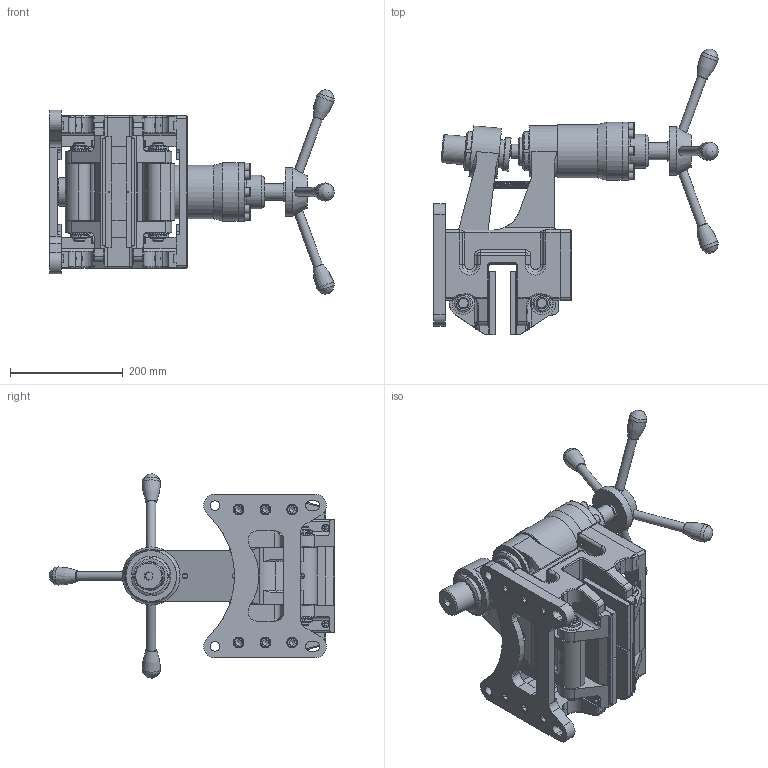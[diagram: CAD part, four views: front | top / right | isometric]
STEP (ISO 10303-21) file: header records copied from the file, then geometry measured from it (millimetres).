
FILE_DESCRIPTION(/* description */ ('','CAx-IF Rec.Pracs.---Representation and Presentation of Product Manufacturing Information (PMI)---4.0---2014-10-13'),/* implementation_level */ '2;1');
FILE_NAME(/* name */ 'X:\INVENTOR\DISEGNI\19_Pinze\STEP x Sito\MANUALI\19_16_600_04 PMTP600_25,4.stp',/* time_stamp */ '2018-10-26T11:03:44+02:00',/* author */ ('stefano'),/* organization */ (''),/* preprocessor_version */ 'ST-DEVELOPER v17',/* originating_system */ 'Autodesk Inventor 2018',/* authorisation */ '');
FILE_SCHEMA (('AP242_MANAGED_MODEL_BASED_3D_ENGINEERING_MIM_LF { 1 0 10303 442 1 1 4 }'));
Products named in the file (1): 19_16_600_04 PMTP600_25,4_Substitute_2
Bounding box: 504.6 x 507.43 x 362.87 mm (x, y, z)
Volume: 9240402.9 mm3; surface area: 1003757.6 mm2
Topology: 1 solids, 1 shells, 1540 faces, 4219 edges, 2742 vertices
Faces by surface type: plane 760, cylinder 435, torus 161, cone 122, bspline 46, sphere 16
Full cylindrical faces by diameter (mm): 1.8 x2, 2.5 x1, 3 x1, 5.188 x1, 7.4 x2, 7.5 x2, 8 x8, 8.376 x1, 8.5 x8, 8.917 x2, 9 x2, 9.188 x1, 10 x2, 10.106 x12, 10.5 x5, 12 x12, 12.5 x12, 13 x8, 13.5 x8, 14 x1, 16 x12, 16.5 x4, 17 x2, 18 x13, 19 x12, 20 x12, 22 x6, 25 x4, 30 x1, 32 x1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
Entity records: 58360 total; most frequent: CARTESIAN_POINT 17702, ORIENTED_EDGE 8326, DIRECTION 8307, EDGE_CURVE 4163, AXIS2_PLACEMENT_3D 3147, VERTEX_POINT 2742, LINE 2013, VECTOR 2013
